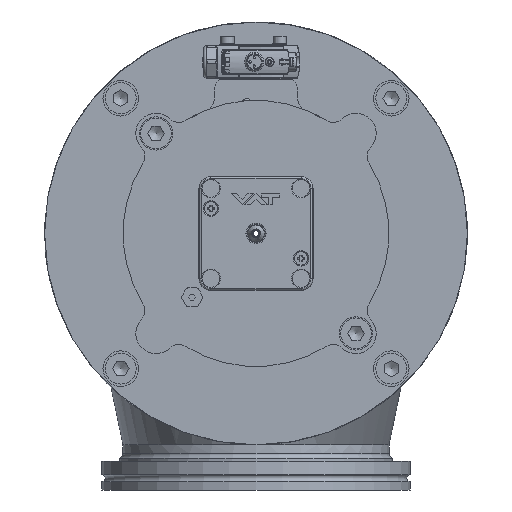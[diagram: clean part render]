
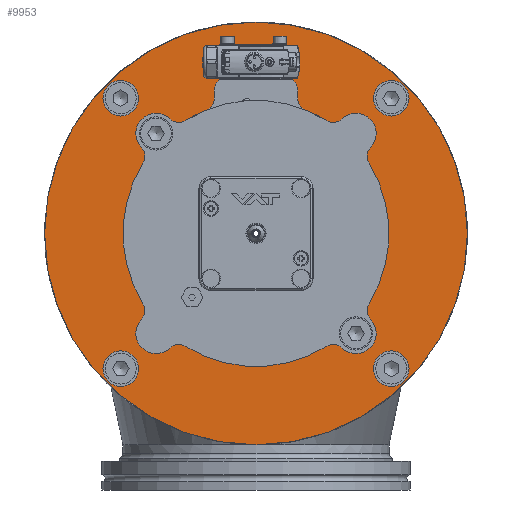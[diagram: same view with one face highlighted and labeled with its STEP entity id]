
A CAD part, left-side view. The second image highlights one B-rep face of the part: STEP entity #9953.
In plain terms, the highlighted planar face has unit normal (-1, 0, 0).
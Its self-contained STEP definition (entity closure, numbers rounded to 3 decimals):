
#9953=ADVANCED_FACE('BCT_REF_77270',(#13256,#13257,#13258,#13259,#13260,
#13261,#13262,#13263,#13264,#13265),#11151,.F.);
#11151=PLANE('',#31607);
#12069=CIRCLE('',#31545,89.);
#12100=CIRCLE('',#31598,3.4);
#12101=CIRCLE('',#31599,3.4);
#12102=CIRCLE('',#31600,3.4);
#12103=CIRCLE('',#31601,3.4);
#12104=CIRCLE('',#31602,7.5);
#12105=CIRCLE('',#31603,7.5);
#12106=CIRCLE('',#31604,7.5);
#12107=CIRCLE('',#31605,7.5);
#12108=CIRCLE('',#31606,55.145);
#13256=FACE_BOUND('',#14316,.T.);
#13257=FACE_BOUND('',#14317,.T.);
#13258=FACE_BOUND('',#14318,.T.);
#13259=FACE_BOUND('',#14319,.T.);
#13260=FACE_BOUND('',#14320,.T.);
#13261=FACE_BOUND('',#14321,.T.);
#13262=FACE_BOUND('',#14322,.T.);
#13263=FACE_BOUND('',#14323,.T.);
#13264=FACE_BOUND('',#14324,.T.);
#13265=FACE_BOUND('',#14325,.T.);
#14316=EDGE_LOOP('',(#17259));
#14317=EDGE_LOOP('',(#17260));
#14318=EDGE_LOOP('',(#17261));
#14319=EDGE_LOOP('',(#17262));
#14320=EDGE_LOOP('',(#17263));
#14321=EDGE_LOOP('',(#17264));
#14322=EDGE_LOOP('',(#17265));
#14323=EDGE_LOOP('',(#17266));
#14324=EDGE_LOOP('',(#17267));
#14325=EDGE_LOOP('',(#17268));
#17259=ORIENTED_EDGE('',*,*,#25098,.T.);
#17260=ORIENTED_EDGE('',*,*,#25099,.T.);
#17261=ORIENTED_EDGE('',*,*,#25100,.T.);
#17262=ORIENTED_EDGE('',*,*,#25101,.T.);
#17263=ORIENTED_EDGE('',*,*,#25102,.T.);
#17264=ORIENTED_EDGE('',*,*,#25103,.T.);
#17265=ORIENTED_EDGE('',*,*,#25104,.T.);
#17266=ORIENTED_EDGE('',*,*,#25105,.T.);
#17267=ORIENTED_EDGE('',*,*,#25106,.T.);
#17268=ORIENTED_EDGE('',*,*,#25059,.T.);
#22615=VERTEX_POINT('',#45171);
#22650=VERTEX_POINT('',#45360);
#22651=VERTEX_POINT('',#45362);
#22652=VERTEX_POINT('',#45364);
#22653=VERTEX_POINT('',#45366);
#22654=VERTEX_POINT('',#45368);
#22655=VERTEX_POINT('',#45370);
#22656=VERTEX_POINT('',#45372);
#22657=VERTEX_POINT('',#45374);
#22658=VERTEX_POINT('',#45376);
#25059=EDGE_CURVE('',#22615,#22615,#12069,.T.);
#25098=EDGE_CURVE('',#22650,#22650,#12100,.T.);
#25099=EDGE_CURVE('',#22651,#22651,#12101,.T.);
#25100=EDGE_CURVE('',#22652,#22652,#12102,.T.);
#25101=EDGE_CURVE('BCT_REF_77872',#22653,#22653,#12103,.T.);
#25102=EDGE_CURVE('BCT_REF_108915',#22654,#22654,#12104,.T.);
#25103=EDGE_CURVE('',#22655,#22655,#12105,.T.);
#25104=EDGE_CURVE('',#22656,#22656,#12106,.T.);
#25105=EDGE_CURVE('',#22657,#22657,#12107,.T.);
#25106=EDGE_CURVE('BCT_REF_78328',#22658,#22658,#12108,.T.);
#31545=AXIS2_PLACEMENT_3D('',#45170,#35107,#35108);
#31598=AXIS2_PLACEMENT_3D('',#45359,#35217,#35218);
#31599=AXIS2_PLACEMENT_3D('',#45361,#35219,#35220);
#31600=AXIS2_PLACEMENT_3D('',#45363,#35221,#35222);
#31601=AXIS2_PLACEMENT_3D('',#45365,#35223,#35224);
#31602=AXIS2_PLACEMENT_3D('',#45367,#35225,#35226);
#31603=AXIS2_PLACEMENT_3D('',#45369,#35227,#35228);
#31604=AXIS2_PLACEMENT_3D('',#45371,#35229,#35230);
#31605=AXIS2_PLACEMENT_3D('',#45373,#35231,#35232);
#31606=AXIS2_PLACEMENT_3D('',#45375,#35233,#35234);
#31607=AXIS2_PLACEMENT_3D('',#45377,#35235,#35236);
#35107=DIRECTION('',(-1.,0.,0.));
#35108=DIRECTION('',(0.,0.,1.));
#35217=DIRECTION('',(1.,0.,0.));
#35218=DIRECTION('',(0.,-1.,0.));
#35219=DIRECTION('',(1.,0.,0.));
#35220=DIRECTION('',(0.,0.,1.));
#35221=DIRECTION('',(1.,0.,0.));
#35222=DIRECTION('',(0.,1.,0.));
#35223=DIRECTION('',(1.,0.,0.));
#35224=DIRECTION('',(0.,0.,-1.));
#35225=DIRECTION('',(1.,0.,0.));
#35226=DIRECTION('',(0.,-1.,0.));
#35227=DIRECTION('',(1.,0.,0.));
#35228=DIRECTION('',(0.,0.,1.));
#35229=DIRECTION('',(1.,0.,0.));
#35230=DIRECTION('',(0.,1.,0.));
#35231=DIRECTION('',(1.,0.,0.));
#35232=DIRECTION('',(0.,0.,-1.));
#35233=DIRECTION('',(1.,0.,0.));
#35234=DIRECTION('',(0.,0.,-1.));
#35235=DIRECTION('',(1.,0.,0.));
#35236=DIRECTION('',(0.,0.,-1.));
#45170=CARTESIAN_POINT('',(0.,0.,0.));
#45171=CARTESIAN_POINT('',(0.,0.,89.));
#45359=CARTESIAN_POINT('',(0.,-42.073,-42.073));
#45360=CARTESIAN_POINT('',(0.,-45.473,-42.073));
#45361=CARTESIAN_POINT('',(0.,-42.073,42.073));
#45362=CARTESIAN_POINT('',(0.,-42.073,45.473));
#45363=CARTESIAN_POINT('',(0.,42.073,42.073));
#45364=CARTESIAN_POINT('',(0.,45.473,42.073));
#45365=CARTESIAN_POINT('',(0.,42.073,-42.073));
#45366=CARTESIAN_POINT('',(0.,42.073,-45.473));
#45367=CARTESIAN_POINT('',(0.,56.922,-56.922));
#45368=CARTESIAN_POINT('',(0.,49.422,-56.922));
#45369=CARTESIAN_POINT('',(0.,-56.922,-56.922));
#45370=CARTESIAN_POINT('',(0.,-56.922,-49.422));
#45371=CARTESIAN_POINT('',(0.,-56.922,56.922));
#45372=CARTESIAN_POINT('',(0.,-49.422,56.922));
#45373=CARTESIAN_POINT('',(0.,56.922,56.922));
#45374=CARTESIAN_POINT('',(0.,56.922,49.422));
#45375=CARTESIAN_POINT('',(0.,0.,0.));
#45376=CARTESIAN_POINT('',(0.,0.,-55.145));
#45377=CARTESIAN_POINT('',(0.,89.,0.));
